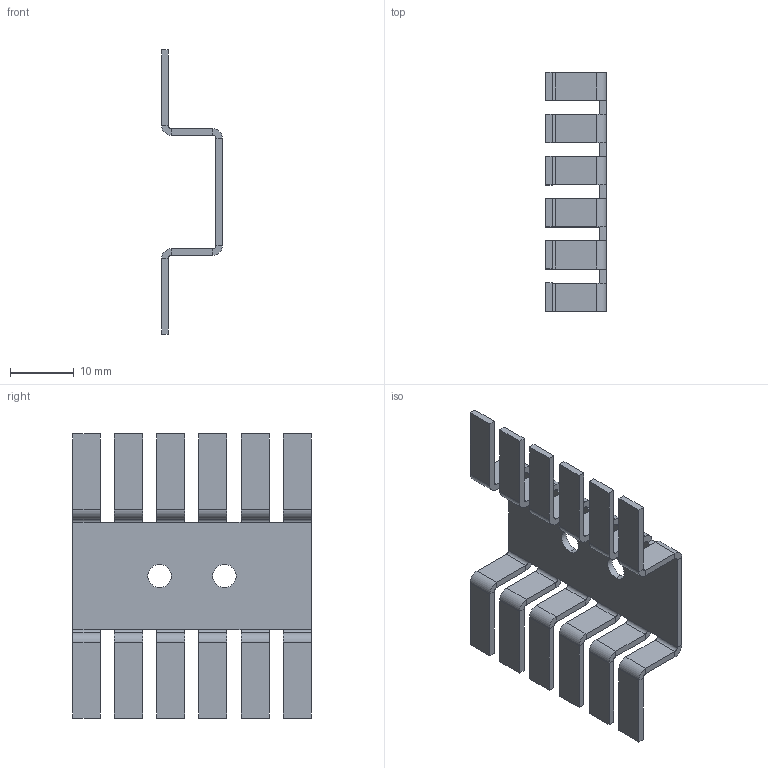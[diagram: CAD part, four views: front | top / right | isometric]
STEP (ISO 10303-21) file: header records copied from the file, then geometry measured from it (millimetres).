
FILE_DESCRIPTION (( 'STEP AP214' ), '1' );
FILE_NAME ('507222B00000G.STEP', '2022-07-11T00:05:22', ( '' ), ( '' ), 'SwSTEP 2.0', 'SolidWorks 2021', '' );
FILE_SCHEMA (( 'AUTOMOTIVE_DESIGN' ));
Length unit declared in the file: millimetre
Products named in the file (1): 507222B00000G
Bounding box: 9.52 x 37.34 x 44.46 mm (x, y, z)
Volume: 1771.5 mm3; surface area: 4133 mm2
Topology: 1 solids, 1 shells, 192 faces, 438 edges, 248 vertices
Faces by surface type: plane 140, cylinder 52
Entity records: 5252 total; most frequent: DIRECTION 928, CARTESIAN_POINT 879, ORIENTED_EDGE 876, EDGE_CURVE 438, VECTOR 334, LINE 334, AXIS2_PLACEMENT_3D 297, VERTEX_POINT 248
